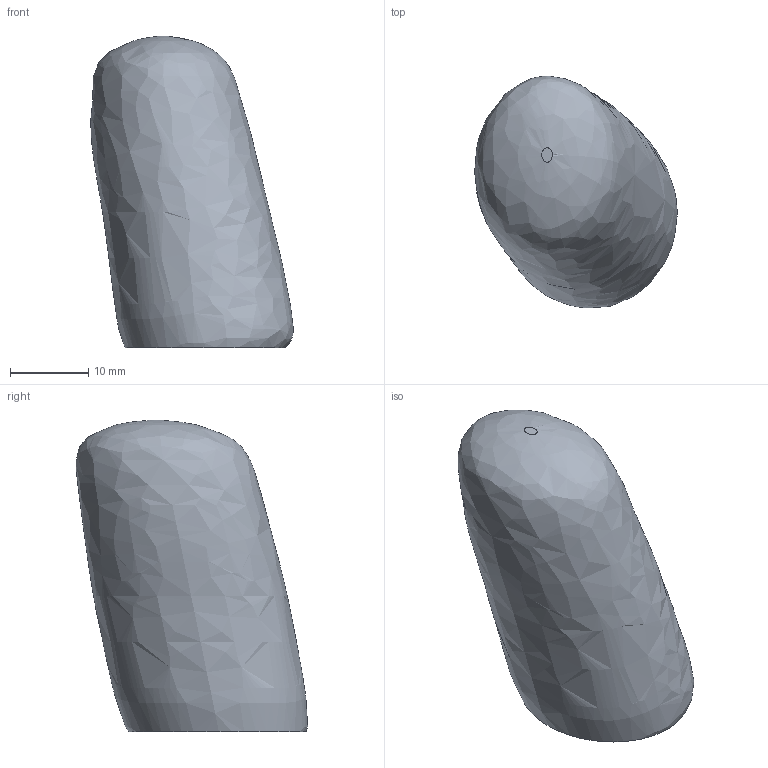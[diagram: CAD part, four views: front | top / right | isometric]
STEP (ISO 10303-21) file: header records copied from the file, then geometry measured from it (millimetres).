
FILE_DESCRIPTION(('FreeCAD Model'),'2;1');
FILE_NAME('Open CASCADE Shape Model','2026-11-20T08:25:38',('FreeCAD'),( 'FreeCAD'),'Open CASCADE STEP processor 7.8','FreeCAD','Unknown');
FILE_SCHEMA(('AUTOMOTIVE_DESIGN { 1 0 10303 214 1 1 1 1 }'));
Length unit declared in the file: millimetre
Products named in the file (1): Open CASCADE STEP translator 7.8 30
Bounding box: 25.82 x 29.47 x 39.66 mm (x, y, z)
Volume: 5980.9 mm3; surface area: 5312.6 mm2
Topology: 1 solids, 1 shells, 5 faces, 6 edges, 4 vertices
Faces by surface type: plane 3, bspline 2
Entity records: 560 total; most frequent: CARTESIAN_POINT 492, ORIENTED_EDGE 12, DIRECTION 8, FACE_BOUND 6, EDGE_LOOP 6, EDGE_CURVE 6, ADVANCED_FACE 5, AXIS2_PLACEMENT_3D 4
